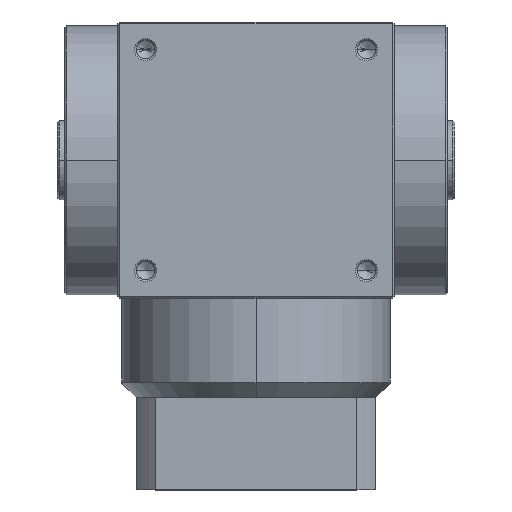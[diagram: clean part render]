
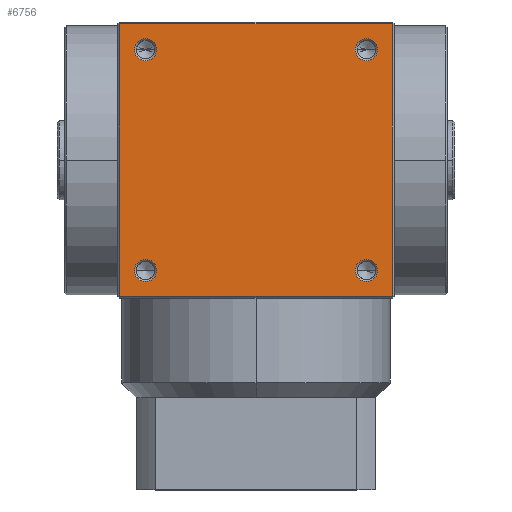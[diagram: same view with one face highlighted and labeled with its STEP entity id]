
A CAD part, top view. The second image highlights one B-rep face of the part: STEP entity #6756.
In plain terms, the highlighted planar face has unit normal (0, 0, 1).
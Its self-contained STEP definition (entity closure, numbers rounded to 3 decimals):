
#97 = ORIENTED_EDGE ( 'NONE', *, *, #4342, .T. ) ;
#151 = CARTESIAN_POINT ( 'NONE',  ( -37., -37., 37.5 ) ) ;
#260 = CARTESIAN_POINT ( 'NONE',  ( 27., -30., 37.5 ) ) ;
#274 = AXIS2_PLACEMENT_3D ( 'NONE', #8612, #8550, #5952 ) ;
#321 = CIRCLE ( 'NONE', #6798, 3. ) ;
#409 = DIRECTION ( 'NONE',  ( -1., 0., 0. ) ) ;
#424 = EDGE_LOOP ( 'NONE', ( #7040, #97 ) ) ;
#453 = EDGE_CURVE ( 'NONE', #3240, #3525, #1384, .T. ) ;
#464 = CIRCLE ( 'NONE', #963, 3. ) ;
#557 = VERTEX_POINT ( 'NONE', #3239 ) ;
#869 = DIRECTION ( 'NONE',  ( -1., 0., 0. ) ) ;
#954 = EDGE_CURVE ( 'NONE', #3525, #2754, #6223, .T. ) ;
#963 = AXIS2_PLACEMENT_3D ( 'NONE', #7556, #3538, #869 ) ;
#968 = AXIS2_PLACEMENT_3D ( 'NONE', #5836, #8036, #6497 ) ;
#1271 = CIRCLE ( 'NONE', #6458, 3. ) ;
#1290 = AXIS2_PLACEMENT_3D ( 'NONE', #7211, #5179, #8484 ) ;
#1365 = AXIS2_PLACEMENT_3D ( 'NONE', #3715, #3686, #2259 ) ;
#1384 = LINE ( 'NONE', #4005, #1600 ) ;
#1544 = DIRECTION ( 'NONE',  ( 0., 0., -1. ) ) ;
#1600 = VECTOR ( 'NONE', #1859, 1000. ) ;
#1663 = CARTESIAN_POINT ( 'NONE',  ( 0., 37., 37.5 ) ) ;
#1764 = DIRECTION ( 'NONE',  ( 0., 0., -1. ) ) ;
#1859 = DIRECTION ( 'NONE',  ( 1., 0., 0. ) ) ;
#1888 = CIRCLE ( 'NONE', #3638, 3. ) ;
#2248 = CARTESIAN_POINT ( 'NONE',  ( 30., -30., 37.5 ) ) ;
#2255 = DIRECTION ( 'NONE',  ( 0., 0., -1. ) ) ;
#2257 = ORIENTED_EDGE ( 'NONE', *, *, #954, .T. ) ;
#2259 = DIRECTION ( 'NONE',  ( -1., 0., 0. ) ) ;
#2320 = EDGE_LOOP ( 'NONE', ( #3265, #6911 ) ) ;
#2406 = CARTESIAN_POINT ( 'NONE',  ( 33., -30., 37.5 ) ) ;
#2503 = DIRECTION ( 'NONE',  ( 0., 1., 0. ) ) ;
#2754 = VERTEX_POINT ( 'NONE', #7835 ) ;
#3050 = DIRECTION ( 'NONE',  ( 0., 0., -1. ) ) ;
#3239 = CARTESIAN_POINT ( 'NONE',  ( -33., 30., 37.5 ) ) ;
#3240 = VERTEX_POINT ( 'NONE', #151 ) ;
#3265 = ORIENTED_EDGE ( 'NONE', *, *, #7427, .T. ) ;
#3514 = CARTESIAN_POINT ( 'NONE',  ( 27., 30., 37.5 ) ) ;
#3525 = VERTEX_POINT ( 'NONE', #8474 ) ;
#3538 = DIRECTION ( 'NONE',  ( 0., 0., -1. ) ) ;
#3638 = AXIS2_PLACEMENT_3D ( 'NONE', #4318, #2255, #6980 ) ;
#3661 = VERTEX_POINT ( 'NONE', #8216 ) ;
#3677 = CARTESIAN_POINT ( 'NONE',  ( 30., -30., 37.5 ) ) ;
#3686 = DIRECTION ( 'NONE',  ( 0., 0., -1. ) ) ;
#3715 = CARTESIAN_POINT ( 'NONE',  ( -30., 30., 37.5 ) ) ;
#3740 = ORIENTED_EDGE ( 'NONE', *, *, #7499, .T. ) ;
#3788 = CARTESIAN_POINT ( 'NONE',  ( 37., 0., 37.5 ) ) ;
#3837 = LINE ( 'NONE', #1663, #4927 ) ;
#3905 = VERTEX_POINT ( 'NONE', #7672 ) ;
#4005 = CARTESIAN_POINT ( 'NONE',  ( 0., -37., 37.5 ) ) ;
#4028 = CIRCLE ( 'NONE', #274, 3. ) ;
#4050 = FACE_BOUND ( 'NONE', #2320, .T. ) ;
#4087 = CARTESIAN_POINT ( 'NONE',  ( -33., -30., 37.5 ) ) ;
#4108 = EDGE_LOOP ( 'NONE', ( #4753, #4921 ) ) ;
#4157 = FACE_BOUND ( 'NONE', #424, .T. ) ;
#4281 = ORIENTED_EDGE ( 'NONE', *, *, #4630, .T. ) ;
#4318 = CARTESIAN_POINT ( 'NONE',  ( -30., -30., 37.5 ) ) ;
#4342 = EDGE_CURVE ( 'NONE', #5682, #3661, #464, .T. ) ;
#4367 = CIRCLE ( 'NONE', #6922, 3. ) ;
#4400 = EDGE_LOOP ( 'NONE', ( #3740, #7910, #2257, #6918 ) ) ;
#4468 = CARTESIAN_POINT ( 'NONE',  ( -30., -30., 37.5 ) ) ;
#4509 = EDGE_CURVE ( 'NONE', #5182, #5022, #1888, .T. ) ;
#4630 = EDGE_CURVE ( 'NONE', #5022, #5182, #1271, .T. ) ;
#4670 = PLANE ( 'NONE',  #968 ) ;
#4697 = FACE_BOUND ( 'NONE', #6895, .T. ) ;
#4753 = ORIENTED_EDGE ( 'NONE', *, *, #8400, .T. ) ;
#4909 = FACE_BOUND ( 'NONE', #4108, .T. ) ;
#4921 = ORIENTED_EDGE ( 'NONE', *, *, #5826, .T. ) ;
#4927 = VECTOR ( 'NONE', #5666, 1000. ) ;
#5019 = DIRECTION ( 'NONE',  ( -1., 0., 0. ) ) ;
#5022 = VERTEX_POINT ( 'NONE', #4087 ) ;
#5051 = DIRECTION ( 'NONE',  ( 0., -1., 0. ) ) ;
#5069 = VECTOR ( 'NONE', #2503, 1000. ) ;
#5129 = VERTEX_POINT ( 'NONE', #6296 ) ;
#5179 = DIRECTION ( 'NONE',  ( 0., 0., -1. ) ) ;
#5182 = VERTEX_POINT ( 'NONE', #8289 ) ;
#5325 = FACE_OUTER_BOUND ( 'NONE', #4400, .T. ) ;
#5666 = DIRECTION ( 'NONE',  ( -1., 0., 0. ) ) ;
#5682 = VERTEX_POINT ( 'NONE', #3514 ) ;
#5826 = EDGE_CURVE ( 'NONE', #557, #5129, #8368, .T. ) ;
#5836 = CARTESIAN_POINT ( 'NONE',  ( 0., 0., 37.5 ) ) ;
#5934 = ORIENTED_EDGE ( 'NONE', *, *, #4509, .T. ) ;
#5952 = DIRECTION ( 'NONE',  ( -1., 0., 0. ) ) ;
#6223 = LINE ( 'NONE', #3788, #5069 ) ;
#6296 = CARTESIAN_POINT ( 'NONE',  ( -27., 30., 37.5 ) ) ;
#6395 = EDGE_CURVE ( 'NONE', #2754, #3905, #3837, .T. ) ;
#6441 = CARTESIAN_POINT ( 'NONE',  ( -37., 0., 37.5 ) ) ;
#6458 = AXIS2_PLACEMENT_3D ( 'NONE', #4468, #3050, #409 ) ;
#6497 = DIRECTION ( 'NONE',  ( -1., 0., 0. ) ) ;
#6633 = EDGE_CURVE ( 'NONE', #6929, #8115, #321, .T. ) ;
#6659 = VECTOR ( 'NONE', #5051, 1000. ) ;
#6756 = ADVANCED_FACE ( 'NONE', ( #4050, #4697, #4157, #4909, #5325 ), #4670, .F. ) ;
#6798 = AXIS2_PLACEMENT_3D ( 'NONE', #3677, #1764, #5019 ) ;
#6859 = CIRCLE ( 'NONE', #1365, 3. ) ;
#6895 = EDGE_LOOP ( 'NONE', ( #5934, #4281 ) ) ;
#6911 = ORIENTED_EDGE ( 'NONE', *, *, #6633, .T. ) ;
#6918 = ORIENTED_EDGE ( 'NONE', *, *, #6395, .T. ) ;
#6922 = AXIS2_PLACEMENT_3D ( 'NONE', #2248, #1544, #8298 ) ;
#6929 = VERTEX_POINT ( 'NONE', #260 ) ;
#6980 = DIRECTION ( 'NONE',  ( -1., 0., 0. ) ) ;
#7040 = ORIENTED_EDGE ( 'NONE', *, *, #7564, .T. ) ;
#7081 = LINE ( 'NONE', #6441, #6659 ) ;
#7211 = CARTESIAN_POINT ( 'NONE',  ( -30., 30., 37.5 ) ) ;
#7427 = EDGE_CURVE ( 'NONE', #8115, #6929, #4367, .T. ) ;
#7499 = EDGE_CURVE ( 'NONE', #3905, #3240, #7081, .T. ) ;
#7556 = CARTESIAN_POINT ( 'NONE',  ( 30., 30., 37.5 ) ) ;
#7564 = EDGE_CURVE ( 'NONE', #3661, #5682, #4028, .T. ) ;
#7672 = CARTESIAN_POINT ( 'NONE',  ( -37., 37., 37.5 ) ) ;
#7835 = CARTESIAN_POINT ( 'NONE',  ( 37., 37., 37.5 ) ) ;
#7910 = ORIENTED_EDGE ( 'NONE', *, *, #453, .T. ) ;
#8036 = DIRECTION ( 'NONE',  ( 0., 0., -1. ) ) ;
#8115 = VERTEX_POINT ( 'NONE', #2406 ) ;
#8216 = CARTESIAN_POINT ( 'NONE',  ( 33., 30., 37.5 ) ) ;
#8289 = CARTESIAN_POINT ( 'NONE',  ( -27., -30., 37.5 ) ) ;
#8298 = DIRECTION ( 'NONE',  ( -1., 0., 0. ) ) ;
#8368 = CIRCLE ( 'NONE', #1290, 3. ) ;
#8400 = EDGE_CURVE ( 'NONE', #5129, #557, #6859, .T. ) ;
#8474 = CARTESIAN_POINT ( 'NONE',  ( 37., -37., 37.5 ) ) ;
#8484 = DIRECTION ( 'NONE',  ( -1., 0., 0. ) ) ;
#8550 = DIRECTION ( 'NONE',  ( 0., 0., -1. ) ) ;
#8612 = CARTESIAN_POINT ( 'NONE',  ( 30., 30., 37.5 ) ) ;
